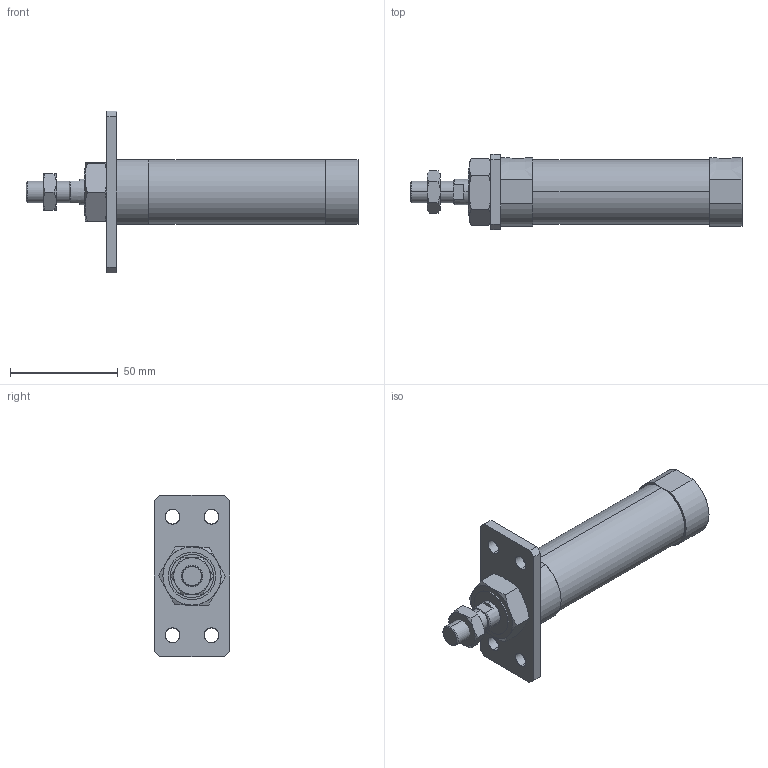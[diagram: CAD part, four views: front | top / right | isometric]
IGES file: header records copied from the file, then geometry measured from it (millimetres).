
Start section: SolidWorks IGES file using analytic representation for surfaces
Global section: file name: C:\Users\Toshiba\Desktop\JGND2-25-50-A.IGS; native system: SolidWorks 2014; preprocessor: SolidWorks 2014; author: Toshiba; date: 160804.103534; units: millimetre
Bounding box: 154 x 35 x 75 mm (x, y, z)
Surface area: 24410.7 mm2 (no closed solid volume)
Topology: 0 solids, 0 shells, 109 faces, 2000 edges, 1996 vertices
Faces by surface type: bspline 69, revolution 40
